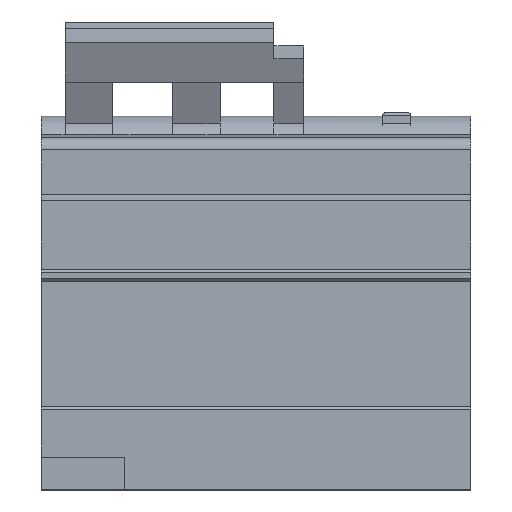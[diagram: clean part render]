
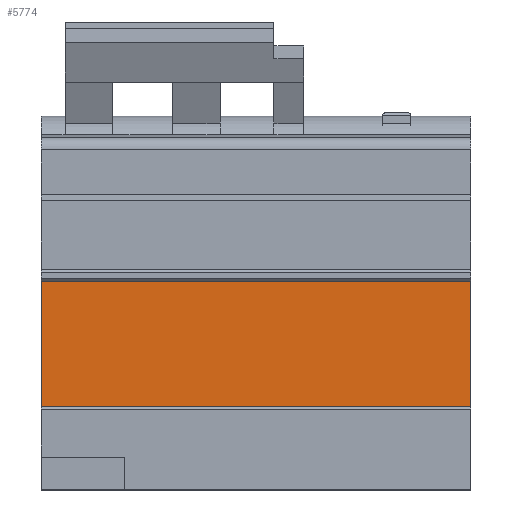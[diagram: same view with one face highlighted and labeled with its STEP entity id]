
A CAD part, front view. The second image highlights one B-rep face of the part: STEP entity #5774.
In plain terms, the highlighted planar face has unit normal (0, -1, 0).
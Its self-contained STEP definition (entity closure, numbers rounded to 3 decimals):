
#189=LINE('',#8082,#708);
#433=LINE('',#9736,#952);
#501=LINE('',#9908,#1020);
#502=LINE('',#9910,#1021);
#708=VECTOR('',#6537,10.);
#952=VECTOR('',#7267,10.);
#1020=VECTOR('',#7451,10.);
#1021=VECTOR('',#7454,10.);
#1362=PLANE('',#6263);
#1762=FACE_OUTER_BOUND('',#2168,.T.);
#2168=EDGE_LOOP('',(#4902,#4903,#4904,#4905));
#2531=VERTEX_POINT('',#8079);
#2532=VERTEX_POINT('',#8081);
#2836=VERTEX_POINT('',#9733);
#2837=VERTEX_POINT('',#9735);
#3088=EDGE_CURVE('',#2531,#2532,#189,.T.);
#3511=EDGE_CURVE('',#2837,#2836,#433,.T.);
#3597=EDGE_CURVE('',#2836,#2532,#501,.T.);
#3598=EDGE_CURVE('',#2837,#2531,#502,.T.);
#4902=ORIENTED_EDGE('',*,*,#3511,.T.);
#4903=ORIENTED_EDGE('',*,*,#3597,.T.);
#4904=ORIENTED_EDGE('',*,*,#3088,.F.);
#4905=ORIENTED_EDGE('',*,*,#3598,.F.);
#5774=ADVANCED_FACE('',(#1762),#1362,.T.);
#6263=AXIS2_PLACEMENT_3D('',#9909,#7452,#7453);
#6537=DIRECTION('',(0.,0.,-1.));
#7267=DIRECTION('',(0.,0.,-1.));
#7451=DIRECTION('',(1.,0.,0.));
#7452=DIRECTION('center_axis',(0.,-1.,0.));
#7453=DIRECTION('ref_axis',(0.,0.,-1.));
#7454=DIRECTION('',(1.,0.,0.));
#8079=CARTESIAN_POINT('',(72.,-9.653,-21.84));
#8081=CARTESIAN_POINT('',(72.,-9.653,-42.84));
#8082=CARTESIAN_POINT('',(72.,-9.653,-21.84));
#9733=CARTESIAN_POINT('',(0.,-9.653,-42.84));
#9735=CARTESIAN_POINT('',(0.,-9.653,-21.84));
#9736=CARTESIAN_POINT('',(0.,-9.653,-21.84));
#9908=CARTESIAN_POINT('',(0.,-9.653,-42.84));
#9909=CARTESIAN_POINT('Origin',(0.,-9.653,-21.84));
#9910=CARTESIAN_POINT('',(0.,-9.653,-21.84));
